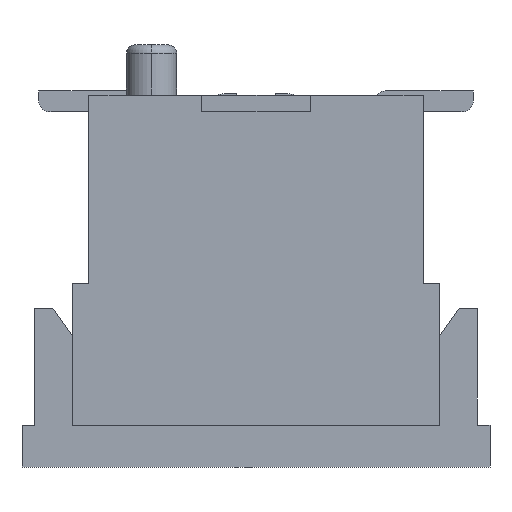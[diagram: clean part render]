
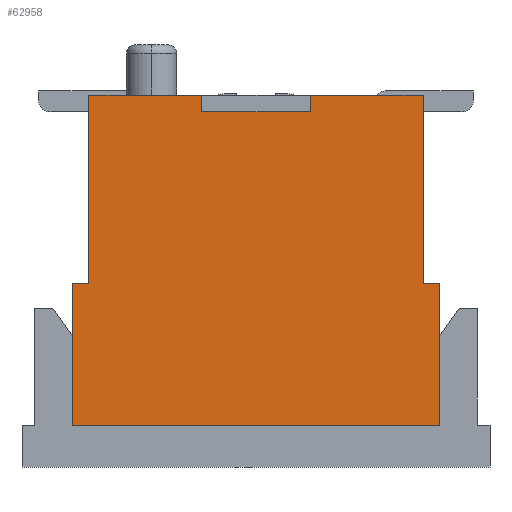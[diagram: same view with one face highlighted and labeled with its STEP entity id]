
A CAD part, left-side view. The second image highlights one B-rep face of the part: STEP entity #62958.
In plain terms, the highlighted planar face has unit normal (-1, 0, 0).
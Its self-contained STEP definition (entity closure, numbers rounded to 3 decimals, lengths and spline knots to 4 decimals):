
#4362 = EDGE_CURVE ( 'NONE', #144591, #31070, #133967, .T. ) ;
#5116 = CARTESIAN_POINT ( 'NONE',  ( -35.35, 2.2, 1.7 ) ) ;
#6414 = DIRECTION ( 'NONE',  ( 0., 1., 0. ) ) ;
#7695 = CARTESIAN_POINT ( 'NONE',  ( -35.35, 0., 0. ) ) ;
#15018 = VECTOR ( 'NONE', #60100, 1000. ) ;
#16510 = CARTESIAN_POINT ( 'NONE',  ( -35.35, 2.2, 0.85 ) ) ;
#16559 = VERTEX_POINT ( 'NONE', #126735 ) ;
#24418 = VERTEX_POINT ( 'NONE', #252295 ) ;
#30199 = VERTEX_POINT ( 'NONE', #124403 ) ;
#31070 = VERTEX_POINT ( 'NONE', #73395 ) ;
#32561 = CARTESIAN_POINT ( 'NONE',  ( -35.35, -0.65, 3.85 ) ) ;
#34779 = ORIENTED_EDGE ( 'NONE', *, *, #129633, .F. ) ;
#47095 = DIRECTION ( 'NONE',  ( 0., 0., 1. ) ) ;
#50144 = CARTESIAN_POINT ( 'NONE',  ( -35.35, -2.2, 1.7 ) ) ;
#50502 = VECTOR ( 'NONE', #57159, 1000. ) ;
#52878 = LINE ( 'NONE', #193325, #103630 ) ;
#53307 = CARTESIAN_POINT ( 'NONE',  ( -35.35, 1.325, 3.95 ) ) ;
#54498 = VERTEX_POINT ( 'NONE', #82716 ) ;
#57159 = DIRECTION ( 'NONE',  ( 0., -1., 0. ) ) ;
#60100 = DIRECTION ( 'NONE',  ( 0., 0., -1. ) ) ;
#62958 = ADVANCED_FACE ( 'NONE', ( #63740 ), #109141, .T. ) ;
#63740 = FACE_OUTER_BOUND ( 'NONE', #79656, .T. ) ;
#64469 = DIRECTION ( 'NONE',  ( 0., -1., 0. ) ) ;
#67472 = ORIENTED_EDGE ( 'NONE', *, *, #97249, .F. ) ;
#69713 = EDGE_CURVE ( 'NONE', #239932, #54498, #76678, .T. ) ;
#73395 = CARTESIAN_POINT ( 'NONE',  ( -35.35, -0.65, 3.75 ) ) ;
#75899 = ORIENTED_EDGE ( 'NONE', *, *, #143212, .F. ) ;
#76678 = LINE ( 'NONE', #53307, #50502 ) ;
#78936 = LINE ( 'NONE', #16510, #110853 ) ;
#79656 = EDGE_LOOP ( 'NONE', ( #67472, #214829, #194506, #141973, #217281, #34779, #254674, #209036, #191965, #112560, #186507, #75899 ) ) ;
#80020 = CARTESIAN_POINT ( 'NONE',  ( -35.35, 0.65, 3.85 ) ) ;
#81520 = VECTOR ( 'NONE', #210762, 1000. ) ;
#82716 = CARTESIAN_POINT ( 'NONE',  ( -35.35, 0.65, 3.95 ) ) ;
#83611 = CARTESIAN_POINT ( 'NONE',  ( -35.35, 2.2, 0. ) ) ;
#83992 = CARTESIAN_POINT ( 'NONE',  ( -35.35, -2.1, 1.7 ) ) ;
#84024 = LINE ( 'NONE', #87839, #149413 ) ;
#87839 = CARTESIAN_POINT ( 'NONE',  ( -35.35, 0., 3.75 ) ) ;
#94693 = VECTOR ( 'NONE', #189672, 1000. ) ;
#94909 = VERTEX_POINT ( 'NONE', #50144 ) ;
#95587 = EDGE_CURVE ( 'NONE', #94909, #141447, #149346, .T. ) ;
#97249 = EDGE_CURVE ( 'NONE', #144591, #16559, #52878, .T. ) ;
#98743 = EDGE_CURVE ( 'NONE', #228252, #94909, #223126, .T. ) ;
#103630 = VECTOR ( 'NONE', #150462, 1000. ) ;
#105283 = LINE ( 'NONE', #184618, #147789 ) ;
#107745 = EDGE_CURVE ( 'NONE', #31070, #24418, #84024, .T. ) ;
#109037 = CARTESIAN_POINT ( 'NONE',  ( -35.35, -2.2, 0.85 ) ) ;
#109141 = PLANE ( 'NONE',  #210259 ) ;
#110235 = EDGE_CURVE ( 'NONE', #155226, #30199, #238473, .T. ) ;
#110340 = VERTEX_POINT ( 'NONE', #83611 ) ;
#110853 = VECTOR ( 'NONE', #154380, 1000. ) ;
#112560 = ORIENTED_EDGE ( 'NONE', *, *, #95587, .F. ) ;
#119040 = DIRECTION ( 'NONE',  ( 0., 0., -1. ) ) ;
#122215 = VECTOR ( 'NONE', #119040, 1000. ) ;
#124403 = CARTESIAN_POINT ( 'NONE',  ( -35.35, 2., 1.7 ) ) ;
#124820 = DIRECTION ( 'NONE',  ( -1., 0., 0. ) ) ;
#126735 = CARTESIAN_POINT ( 'NONE',  ( -35.35, -2., 3.95 ) ) ;
#129633 = EDGE_CURVE ( 'NONE', #30199, #239932, #190125, .T. ) ;
#133967 = LINE ( 'NONE', #32561, #81520 ) ;
#139598 = DIRECTION ( 'NONE',  ( 0., -1., 0. ) ) ;
#141447 = VERTEX_POINT ( 'NONE', #154030 ) ;
#141973 = ORIENTED_EDGE ( 'NONE', *, *, #198000, .F. ) ;
#143212 = EDGE_CURVE ( 'NONE', #16559, #228252, #170720, .T. ) ;
#144332 = DIRECTION ( 'NONE',  ( 0., 1., 0. ) ) ;
#144591 = VERTEX_POINT ( 'NONE', #246694 ) ;
#147789 = VECTOR ( 'NONE', #6414, 1000. ) ;
#149346 = LINE ( 'NONE', #109037, #94693 ) ;
#149413 = VECTOR ( 'NONE', #221896, 1000. ) ;
#150462 = DIRECTION ( 'NONE',  ( 0., -1., 0. ) ) ;
#154030 = CARTESIAN_POINT ( 'NONE',  ( -35.35, -2.2, 0. ) ) ;
#154380 = DIRECTION ( 'NONE',  ( 0., 0., 1. ) ) ;
#155226 = VERTEX_POINT ( 'NONE', #5116 ) ;
#157632 = CARTESIAN_POINT ( 'NONE',  ( -35.35, -2., 2.825 ) ) ;
#157830 = CARTESIAN_POINT ( 'NONE',  ( -35.35, 2.1, 1.7 ) ) ;
#170720 = LINE ( 'NONE', #157632, #15018 ) ;
#184618 = CARTESIAN_POINT ( 'NONE',  ( -35.35, 0., 0. ) ) ;
#186507 = ORIENTED_EDGE ( 'NONE', *, *, #98743, .F. ) ;
#189672 = DIRECTION ( 'NONE',  ( 0., 0., -1. ) ) ;
#190125 = LINE ( 'NONE', #225282, #199989 ) ;
#191965 = ORIENTED_EDGE ( 'NONE', *, *, #224417, .F. ) ;
#193325 = CARTESIAN_POINT ( 'NONE',  ( -35.35, -1.325, 3.95 ) ) ;
#194506 = ORIENTED_EDGE ( 'NONE', *, *, #107745, .T. ) ;
#197104 = LINE ( 'NONE', #80020, #122215 ) ;
#198000 = EDGE_CURVE ( 'NONE', #54498, #24418, #197104, .T. ) ;
#199989 = VECTOR ( 'NONE', #47095, 1000. ) ;
#209036 = ORIENTED_EDGE ( 'NONE', *, *, #233897, .F. ) ;
#210259 = AXIS2_PLACEMENT_3D ( 'NONE', #7695, #124820, #144332 ) ;
#210762 = DIRECTION ( 'NONE',  ( 0., 0., -1. ) ) ;
#212212 = VECTOR ( 'NONE', #64469, 1000. ) ;
#214829 = ORIENTED_EDGE ( 'NONE', *, *, #4362, .T. ) ;
#217281 = ORIENTED_EDGE ( 'NONE', *, *, #69713, .F. ) ;
#218834 = CARTESIAN_POINT ( 'NONE',  ( -35.35, 2., 3.95 ) ) ;
#221896 = DIRECTION ( 'NONE',  ( 0., 1., 0. ) ) ;
#223126 = LINE ( 'NONE', #83992, #212212 ) ;
#224417 = EDGE_CURVE ( 'NONE', #141447, #110340, #105283, .T. ) ;
#225282 = CARTESIAN_POINT ( 'NONE',  ( -35.35, 2., 2.825 ) ) ;
#228252 = VERTEX_POINT ( 'NONE', #242296 ) ;
#233114 = VECTOR ( 'NONE', #139598, 1000. ) ;
#233897 = EDGE_CURVE ( 'NONE', #110340, #155226, #78936, .T. ) ;
#238473 = LINE ( 'NONE', #157830, #233114 ) ;
#239932 = VERTEX_POINT ( 'NONE', #218834 ) ;
#242296 = CARTESIAN_POINT ( 'NONE',  ( -35.35, -2., 1.7 ) ) ;
#246694 = CARTESIAN_POINT ( 'NONE',  ( -35.35, -0.65, 3.95 ) ) ;
#252295 = CARTESIAN_POINT ( 'NONE',  ( -35.35, 0.65, 3.75 ) ) ;
#254674 = ORIENTED_EDGE ( 'NONE', *, *, #110235, .F. ) ;
